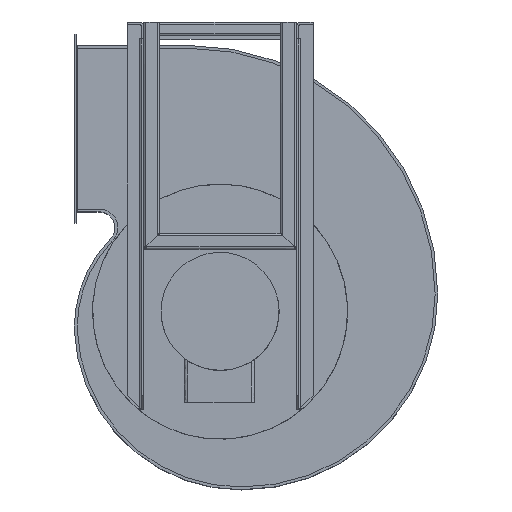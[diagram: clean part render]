
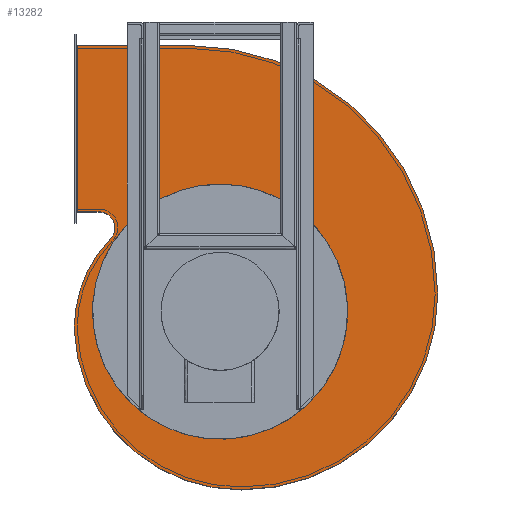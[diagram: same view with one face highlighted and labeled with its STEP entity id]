
A CAD part, top view. The second image highlights one B-rep face of the part: STEP entity #13282.
In plain terms, the highlighted planar face has unit normal (0, 0, 1).
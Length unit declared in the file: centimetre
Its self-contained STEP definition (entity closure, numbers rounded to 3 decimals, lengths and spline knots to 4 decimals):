
#396=CIRCLE('',#13931,2.85);
#397=CIRCLE('',#13932,23.3);
#398=CIRCLE('',#13933,30.08);
#399=CIRCLE('',#13934,35.33);
#400=CIRCLE('',#13935,44.84);
#401=CIRCLE('',#13936,23.);
#558=FACE_BOUND('',#2353,.T.);
#935=PLANE('',#13930);
#1585=FACE_OUTER_BOUND('',#2352,.T.);
#2352=EDGE_LOOP('',(#11366,#11367,#11368,#11369,#11370,#11371,#11372,#11373));
#2353=EDGE_LOOP('',(#11374));
#3346=LINE('',#24191,#4445);
#3352=LINE('',#24207,#4451);
#3353=LINE('',#24209,#4452);
#4445=VECTOR('',#15789,20.2038);
#4451=VECTOR('',#15801,30.);
#4452=VECTOR('',#15802,3.9538);
#6306=VERTEX_POINT('',#24189);
#6307=VERTEX_POINT('',#24190);
#6314=VERTEX_POINT('',#24206);
#6315=VERTEX_POINT('',#24208);
#6316=VERTEX_POINT('',#24210);
#6317=VERTEX_POINT('',#24212);
#6318=VERTEX_POINT('',#24214);
#6319=VERTEX_POINT('',#24216);
#6320=VERTEX_POINT('',#24219);
#8055=EDGE_CURVE('',#6306,#6307,#3346,.T.);
#8063=EDGE_CURVE('',#6306,#6314,#3352,.T.);
#8064=EDGE_CURVE('',#6315,#6314,#3353,.T.);
#8065=EDGE_CURVE('',#6316,#6315,#396,.T.);
#8066=EDGE_CURVE('',#6317,#6316,#397,.T.);
#8067=EDGE_CURVE('',#6318,#6317,#398,.T.);
#8068=EDGE_CURVE('',#6319,#6318,#399,.T.);
#8069=EDGE_CURVE('',#6307,#6319,#400,.T.);
#8070=EDGE_CURVE('',#6320,#6320,#401,.T.);
#11366=ORIENTED_EDGE('',*,*,#8063,.T.);
#11367=ORIENTED_EDGE('',*,*,#8064,.F.);
#11368=ORIENTED_EDGE('',*,*,#8065,.F.);
#11369=ORIENTED_EDGE('',*,*,#8066,.F.);
#11370=ORIENTED_EDGE('',*,*,#8067,.F.);
#11371=ORIENTED_EDGE('',*,*,#8068,.F.);
#11372=ORIENTED_EDGE('',*,*,#8069,.F.);
#11373=ORIENTED_EDGE('',*,*,#8055,.F.);
#11374=ORIENTED_EDGE('',*,*,#8070,.T.);
#13282=ADVANCED_FACE('',(#1585,#558),#935,.T.);
#13930=AXIS2_PLACEMENT_3D('',#24205,#15799,#15800);
#13931=AXIS2_PLACEMENT_3D('',#24211,#15803,#15804);
#13932=AXIS2_PLACEMENT_3D('',#24213,#15805,#15806);
#13933=AXIS2_PLACEMENT_3D('',#24215,#15807,#15808);
#13934=AXIS2_PLACEMENT_3D('',#24217,#15809,#15810);
#13935=AXIS2_PLACEMENT_3D('',#24218,#15811,#15812);
#13936=AXIS2_PLACEMENT_3D('',#24220,#15813,#15814);
#15789=DIRECTION('',(1.,0.,0.));
#15799=DIRECTION('center_axis',(0.,0.,1.));
#15800=DIRECTION('ref_axis',(1.,0.,0.));
#15801=DIRECTION('',(0.,-1.,0.));
#15802=DIRECTION('',(-1.,0.,0.));
#15803=DIRECTION('center_axis',(0.,0.,1.));
#15804=DIRECTION('ref_axis',(-0.684,0.729,0.));
#15805=DIRECTION('center_axis',(0.,0.,-1.));
#15806=DIRECTION('ref_axis',(-0.724,0.69,0.));
#15807=DIRECTION('center_axis',(0.,0.,-1.));
#15808=DIRECTION('ref_axis',(-0.999,-0.037,0.));
#15809=DIRECTION('center_axis',(0.,0.,-1.));
#15810=DIRECTION('ref_axis',(-0.003,-1.,0.));
#15811=DIRECTION('center_axis',(0.,0.,-1.));
#15812=DIRECTION('ref_axis',(1.,0.001,0.));
#15813=DIRECTION('center_axis',(0.,0.,-1.));
#15814=DIRECTION('ref_axis',(-1.,0.,0.));
#24189=CARTESIAN_POINT('',(-563.4045,295.8248,24.4));
#24190=CARTESIAN_POINT('',(-543.2007,295.8248,24.4));
#24191=CARTESIAN_POINT('',(-543.2007,295.8248,24.4));
#24205=CARTESIAN_POINT('Origin',(-565.1307,280.8248,24.4));
#24206=CARTESIAN_POINT('',(-563.4045,265.8248,24.4));
#24207=CARTESIAN_POINT('',(-563.4045,288.3248,24.4));
#24208=CARTESIAN_POINT('',(-559.4507,265.8248,24.4));
#24209=CARTESIAN_POINT('',(-563.6307,265.8248,24.4));
#24210=CARTESIAN_POINT('',(-557.5003,260.8967,24.4));
#24211=CARTESIAN_POINT('Origin',(-559.4507,262.9748,24.4));
#24212=CARTESIAN_POINT('',(-563.9302,244.675,24.4));
#24213=CARTESIAN_POINT('Origin',(-540.6307,244.8248,24.4));
#24214=CARTESIAN_POINT('',(-533.7843,215.705,24.4));
#24215=CARTESIAN_POINT('Origin',(-533.8707,245.7848,24.4));
#24216=CARTESIAN_POINT('',(-498.3607,251.0113,24.4));
#24217=CARTESIAN_POINT('Origin',(-533.6907,251.0348,24.4));
#24218=CARTESIAN_POINT('Origin',(-543.2007,250.9848,24.4));
#24219=CARTESIAN_POINT('',(-514.6307,247.8248,24.4));
#24220=CARTESIAN_POINT('Origin',(-537.6307,247.8248,24.4));
